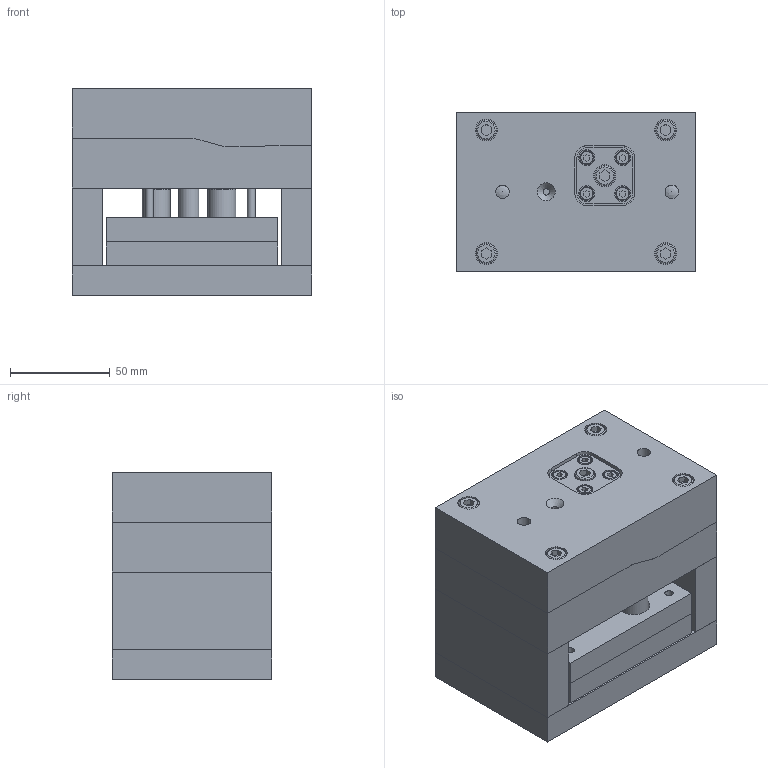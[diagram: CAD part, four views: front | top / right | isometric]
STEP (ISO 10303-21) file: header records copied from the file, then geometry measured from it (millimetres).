
FILE_DESCRIPTION(/* description */ (''),/* implementation_level */ '2;1');
FILE_NAME(/* name */ 'FrontLightHolder moule_.step',/* time_stamp */ '2023-08-16T11:06:51+02:00',/* author */ (''),/* organization */ (''),/* preprocessor_version */ 'ST-DEVELOPER v20',/* originating_system */ 'Autodesk Translation Framework v12.9.0.99',/* authorisation */ '');
FILE_SCHEMA (('AUTOMOTIVE_DESIGN { 1 0 10303 214 3 1 1 }'));
Length unit declared in the file: millimetre
Products named in the file (27): FrontLightHolder moule; partie mobile; emp mobile (1); noyau mobile (1); plaque insert mobile; tasseaux + renforts; renfort; renfort 3; tasseau gauche; tasseau droit; renfort 2; batterie ejection; E 1710_4x50; E 1710_10x80; semelle mobile; E 1230_12x20; E 1200_6x55; E 1200_5x16; partie fixe; noyau fixe; emp fixe; plaque insert; E_1301_8x16_1 (1) v1; E 1200_4x8; E 1200_6x10; visserie; E_1200_6x30_2 v1
Assembly tree (49 placements, depth 4):
  FrontLightHolder moule
    partie mobile
      emp mobile (1)
      noyau mobile (1)
      plaque insert mobile
      tasseaux + renforts
        renfort
        renfort 3
        tasseau gauche
        tasseau droit
        renfort 2
      batterie ejection
        E 1710_4x50  x3
        E 1710_10x80
        E 1200_5x16  x4
      semelle mobile
      E 1200_6x10
      E 1200_4x8  x4
      E 1230_12x20
      E 1200_6x55  x4
      E 1200_5x16  x3
    partie fixe
      noyau fixe
      emp fixe
      plaque insert
      E_1301_8x16_1 (1) v1  x2
      E 1200_4x8  x4
      E 1200_6x10
    visserie
      E_1200_6x30_2 v1  x4
Bounding box: 120 x 80 x 104 mm (x, y, z)
Volume: 861681 mm3; surface area: 198598.8 mm2
Topology: 46 solids, 46 shells, 974 faces, 2182 edges, 1417 vertices
Faces by surface type: plane 463, cylinder 253, cone 88, bspline 87, torus 79, sphere 4
Full cylindrical faces by diameter (mm): 3.332 x4, 4 x14, 4.234 x11, 4.5 x11, 5 x10, 5.035 x10, 5.5 x7, 6 x10, 6.02 x8, 6.6 x14, 6.75 x4, 7 x8, 8 x17, 8.5 x7, 9 x3, 10 x19, 10.274 x1, 10.5 x2, 11 x10, 12 x1, 14 x4, 16 x7, 17 x1
Entity records: 25307 total; most frequent: CARTESIAN_POINT 9907, DIRECTION 2983, ORIENTED_EDGE 2956, EDGE_CURVE 1478, AXIS2_PLACEMENT_3D 1164, VERTEX_POINT 974, EDGE_LOOP 820, LINE 655
